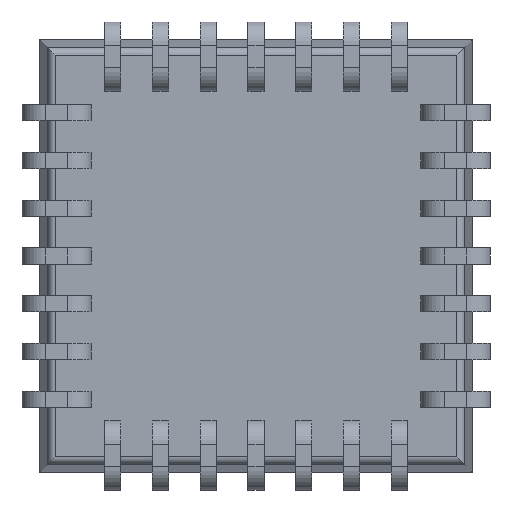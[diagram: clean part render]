
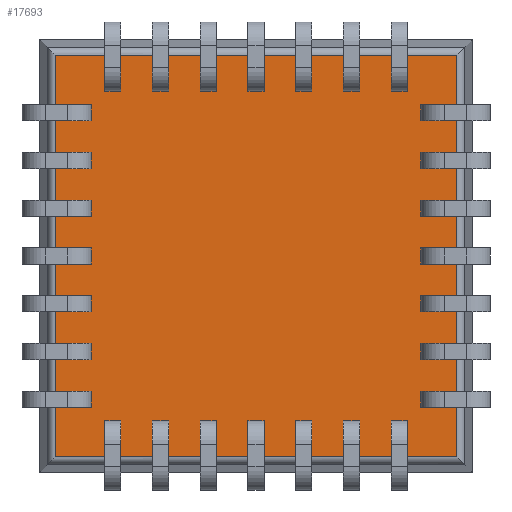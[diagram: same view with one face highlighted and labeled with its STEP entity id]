
A CAD part, front view. The second image highlights one B-rep face of the part: STEP entity #17693.
In plain terms, the highlighted planar face has unit normal (0, -1, 0).
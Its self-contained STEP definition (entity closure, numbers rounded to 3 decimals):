
#17654 = CARTESIAN_POINT ( 'NONE',  ( -5.344, 0.775, 5.344 ) ) ;
#17655 = VERTEX_POINT ( 'NONE', #17654 ) ;
#17656 = CARTESIAN_POINT ( 'NONE',  ( -5.344, 0.775, -5.344 ) ) ;
#17657 = VERTEX_POINT ( 'NONE', #17656 ) ;
#17658 = CARTESIAN_POINT ( 'NONE',  ( -5.344, 0.775, -5.512 ) ) ;
#17659 = DIRECTION ( 'NONE',  ( 0., 0., -1. ) ) ;
#17660 = VECTOR ( 'NONE', #17659, 1000. ) ;
#17661 = LINE ( 'NONE', #17658, #17660 ) ;
#17662 = EDGE_CURVE ( 'NONE', #17655, #17657, #17661, .T. ) ;
#17663 = ORIENTED_EDGE ( 'NONE', *, *, #17662, .T. ) ;
#17664 = CARTESIAN_POINT ( 'NONE',  ( 5.344, 0.775, -5.344 ) ) ;
#17665 = VERTEX_POINT ( 'NONE', #17664 ) ;
#17666 = CARTESIAN_POINT ( 'NONE',  ( 5.512, 0.775, -5.344 ) ) ;
#17667 = DIRECTION ( 'NONE',  ( 1., 0., 0. ) ) ;
#17668 = VECTOR ( 'NONE', #17667, 1000. ) ;
#17669 = LINE ( 'NONE', #17666, #17668 ) ;
#17670 = EDGE_CURVE ( 'NONE', #17657, #17665, #17669, .T. ) ;
#17671 = ORIENTED_EDGE ( 'NONE', *, *, #17670, .T. ) ;
#17672 = CARTESIAN_POINT ( 'NONE',  ( 5.344, 0.775, 5.344 ) ) ;
#17673 = VERTEX_POINT ( 'NONE', #17672 ) ;
#17674 = CARTESIAN_POINT ( 'NONE',  ( 5.344, 0.775, 5.512 ) ) ;
#17675 = DIRECTION ( 'NONE',  ( 0., 0., 1. ) ) ;
#17676 = VECTOR ( 'NONE', #17675, 1000. ) ;
#17677 = LINE ( 'NONE', #17674, #17676 ) ;
#17678 = EDGE_CURVE ( 'NONE', #17665, #17673, #17677, .T. ) ;
#17679 = ORIENTED_EDGE ( 'NONE', *, *, #17678, .T. ) ;
#17680 = CARTESIAN_POINT ( 'NONE',  ( -5.512, 0.775, 5.344 ) ) ;
#17681 = DIRECTION ( 'NONE',  ( -1., 0., 0. ) ) ;
#17682 = VECTOR ( 'NONE', #17681, 1000. ) ;
#17683 = LINE ( 'NONE', #17680, #17682 ) ;
#17684 = EDGE_CURVE ( 'NONE', #17673, #17655, #17683, .T. ) ;
#17685 = ORIENTED_EDGE ( 'NONE', *, *, #17684, .T. ) ;
#17686 = EDGE_LOOP ( 'NONE', ( #17663, #17671, #17679, #17685 ) ) ;
#17687 = FACE_OUTER_BOUND ( 'NONE', #17686, .T. ) ;
#17688 = CARTESIAN_POINT ( 'NONE',  ( 0., 0.775, 0. ) ) ;
#17689 = DIRECTION ( 'NONE',  ( 0., 1., 0. ) ) ;
#17690 = DIRECTION ( 'NONE',  ( 0., 0., 1. ) ) ;
#17691 = AXIS2_PLACEMENT_3D ( 'NONE', #17688, #17689, #17690 ) ;
#17692 = PLANE ( 'NONE', #17691 ) ;
#17693 = ADVANCED_FACE ( 'NONE', ( #17687 ), #17692, .F. ) ;
